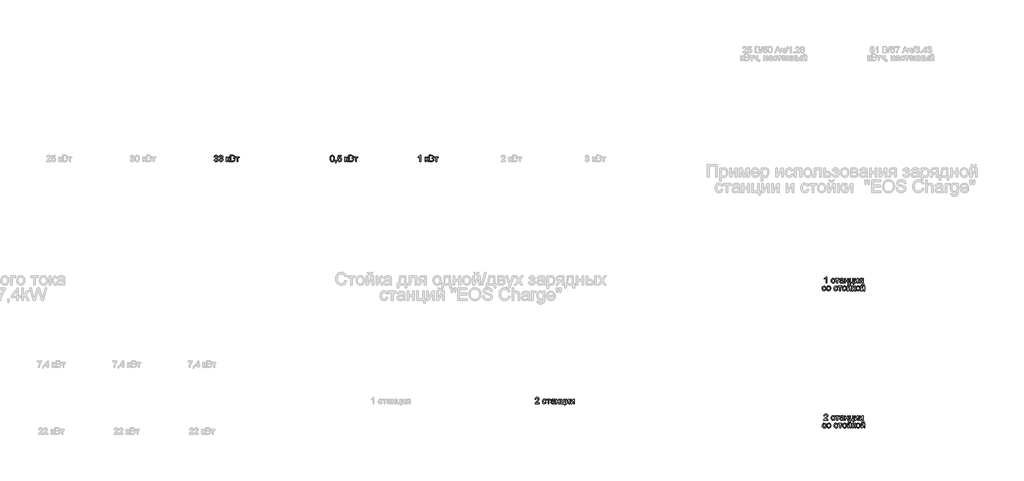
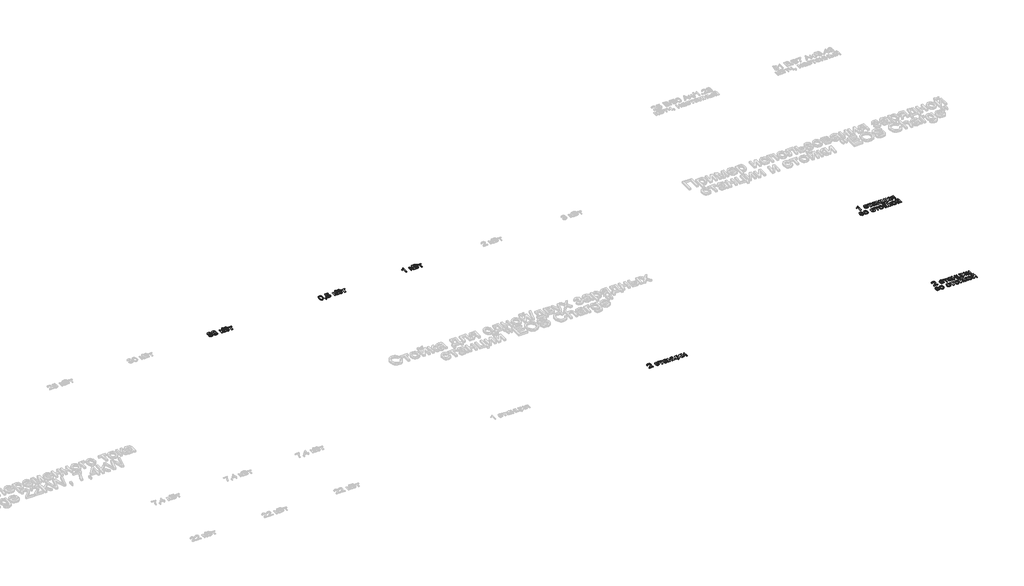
# One storey, part 9 of 26: 6 proxies.
"""IFC4 building model written with IfcOpenShell, lengths in millimetres."""

import ifcopenshell
import ifcopenshell.guid

model = None  # the IFC model being written
_history = None  # IfcOwnerHistory: only IFC2X3 demands one
_inside = {}  # id of a spatial element -> (the spatial element, [elements in it])
_under = {}  # id of a project, library or spatial element -> (it, [spatial elements below it])
_declared = {}  # id of a project -> (the project, [libraries it declares])
_typed = {}  # id of a type object -> (the type object, [elements of that type])
_made_of = {}  # id of a material, layer set ... -> (it, [elements and type objects made of it])


def new_model(schema):
    """Start an empty IFC model of exactly this schema.

    Asked for "IFC4X3", IfcOpenShell would pick the latest addendum, in which some entities
    have other attributes; the version numbers below select the first issue.
    IFC2X3 requires an IfcOwnerHistory on every rooted entity: one is made here for all.
    """
    global model, _history
    if schema == "IFC4X3":
        model = ifcopenshell.file(schema_version=(4, 3, 0, 0))
    else:
        model = ifcopenshell.file(schema=schema)
    _inside.clear()
    _under.clear()
    _declared.clear()
    _typed.clear()
    _made_of.clear()
    _history = None
    if model.schema == "IFC2X3":
        org = make("IfcOrganization", Name="unknown")
        user = make(
            "IfcPersonAndOrganization",
            ThePerson=make("IfcPerson", FamilyName="unknown"),
            TheOrganization=org,
        )
        app = make(
            "IfcApplication",
            ApplicationDeveloper=org,
            Version="unknown",
            ApplicationFullName="unknown",
            ApplicationIdentifier="unknown",
        )
        _history = make(
            "IfcOwnerHistory",
            OwningUser=user,
            OwningApplication=app,
            ChangeAction="ADDED",
            CreationDate=0,
        )
    return model


def make(cls, **values):
    """One entity of the class cls with the attributes given. An attribute that is None is left unset."""
    return model.create_entity(
        cls, **{name: value for name, value in values.items() if value is not None}
    )


def rooted(cls, **values):
    """An entity with a GlobalId (a new one), such as an element, a storey or a relation."""
    return make(cls, GlobalId=ifcopenshell.guid.new(), OwnerHistory=_history, **values)


def si_unit(unit_type, name, prefix=None):
    """IfcSIUnit, for example si_unit("LENGTHUNIT", "METRE", prefix="MILLI")."""
    return make("IfcSIUnit", UnitType=unit_type, Prefix=prefix, Name=name)


def assignment(units):
    """IfcUnitAssignment: the units of a project."""
    return None if units is None else make("IfcUnitAssignment", Units=units)


def point(xyz):
    """IfcCartesianPoint."""
    return None if xyz is None else make("IfcCartesianPoint", Coordinates=xyz)


def direction(xyz):
    """IfcDirection."""
    return None if xyz is None else make("IfcDirection", DirectionRatios=xyz)


def frame(location, z_axis=None, x_axis=None):
    """IfcAxis2Placement3D, a coordinate frame: its origin and axes. An axis left out is left unset."""
    return make(
        "IfcAxis2Placement3D",
        Location=point(location),
        Axis=direction(z_axis),
        RefDirection=direction(x_axis),
    )


def origin():
    """The frame at (0, 0, 0) with its axes left unset."""
    return frame((0.0, 0.0, 0.0))


def origin_with_axes():
    """The frame at (0, 0, 0) with the z axis (0, 0, 1) and the x axis (1, 0, 0) written out."""
    return frame((0.0, 0.0, 0.0), z_axis=(0.0, 0.0, 1.0), x_axis=(1.0, 0.0, 0.0))


def place(relative_to, where):
    """IfcLocalPlacement: puts the frame where relative to a parent placement (None: the world)."""
    return make(
        "IfcLocalPlacement", PlacementRelTo=relative_to, RelativePlacement=where
    )


def context(
    kind, dimensions, precision=None, world=None, true_north=None, identifier=None
):
    """IfcGeometricRepresentationContext, for example the 3D "Model" context."""
    return make(
        "IfcGeometricRepresentationContext",
        ContextIdentifier=identifier,
        ContextType=kind,
        CoordinateSpaceDimension=dimensions,
        Precision=precision,
        WorldCoordinateSystem=world,
        TrueNorth=true_north,
    )


def project(units=None, contexts=None):
    """IfcProject with its units and contexts."""
    return rooted(
        "IfcProject",
        Name="project",
        RepresentationContexts=contexts,
        UnitsInContext=assignment(units),
    )


def spatial(cls, under=None, at=None, **own):
    """A site, building, storey or space (cls), placed at a placement, below another one or the project."""
    s = rooted(cls, ObjectPlacement=at, **own)
    if under is not None:
        _under.setdefault(under.id(), (under, []))[1].append(s)
    return s


def polyline(points):
    """IfcPolyline through the points."""
    return make("IfcPolyline", Points=[point(p) for p in points])


def outline(outer, holes=None, kind="AREA"):
    """IfcArbitraryClosedProfileDef: a profile drawn as a closed curve; with holes, ...WithVoids."""
    if holes is None:
        return make("IfcArbitraryClosedProfileDef", ProfileType=kind, OuterCurve=outer)
    return make(
        "IfcArbitraryProfileDefWithVoids",
        ProfileType=kind,
        OuterCurve=outer,
        InnerCurves=holes,
    )


def extrude(swept, where, along, depth):
    """IfcExtrudedAreaSolid: the profile swept, set in the frame where, extruded along a direction by depth."""
    return make(
        "IfcExtrudedAreaSolid",
        SweptArea=swept,
        Position=where,
        ExtrudedDirection=direction(along),
        Depth=depth,
    )


def shape(context_of_items, identifier, shape_type, items):
    """IfcShapeRepresentation: the items that make up one representation, for example the "Body"."""
    return make(
        "IfcShapeRepresentation",
        ContextOfItems=context_of_items,
        RepresentationIdentifier=identifier,
        RepresentationType=shape_type,
        Items=items,
    )


def made_of(thing, what):
    """Note that an element or type object is made of a material, layer set ...; save() writes the relation."""
    if what is not None:
        _made_of.setdefault(what.id(), (what, []))[1].append(thing)
    return thing


def element(
    cls,
    number,
    at=None,
    inside=None,
    cuts=None,
    type_object=None,
    material=None,
    context=None,
    identifier="Body",
    shape_type=None,
    held_by="IfcProductDefinitionShape",
    body=None,
    shapes=None,
    **own,
):
    """One element of the class cls, such as IfcWall. Its Tag is "e" and its number.

    at: its placement. inside: the storey or other place that contains it. cuts: it is an
    opening in that element (IfcRelVoidsElement). A single representation is given by context,
    identifier, shape_type and body (its items); several are given by shapes. held_by: the class
    of the entity that holds the representations. save() writes the other relations.
    """
    e = rooted(cls, Tag="e%d" % number, ObjectPlacement=at, **own)
    if body is not None:
        shapes = [shape(context, identifier, shape_type, body)]
    if shapes is not None:
        e.Representation = make(held_by, Representations=shapes)
    if inside is not None:
        _inside.setdefault(inside.id(), (inside, []))[1].append(e)
    if cuts is not None:
        rooted(
            "IfcRelVoidsElement", RelatingBuildingElement=cuts, RelatedOpeningElement=e
        )
    if type_object is not None:
        _typed.setdefault(type_object.id(), (type_object, []))[1].append(e)
    return made_of(e, material)


def aggregate(whole, parts):
    """IfcRelAggregates: a whole, such as a stair, and the parts it consists of."""
    return rooted("IfcRelAggregates", RelatingObject=whole, RelatedObjects=parts)


def save(model, path):
    """Write the relations noted so far, then the file.

    IfcRelAggregates (storeys below a building ...), IfcRelContainedInSpatialStructure (elements
    in a storey), IfcRelDefinesByType, IfcRelAssociatesMaterial and IfcRelDeclares: one each for
    every whole, place, type object, material and project.
    """
    for whole, parts in _under.values():
        aggregate(whole, parts)
    for where, things in _inside.values():
        rooted(
            "IfcRelContainedInSpatialStructure",
            RelatedElements=things,
            RelatingStructure=where,
        )
    for kind, things in _typed.values():
        rooted("IfcRelDefinesByType", RelatedObjects=things, RelatingType=kind)
    for what, things in _made_of.values():
        rooted("IfcRelAssociatesMaterial", RelatedObjects=things, RelatingMaterial=what)
    for by, libraries in _declared.values():
        rooted("IfcRelDeclares", RelatingContext=by, RelatedDefinitions=libraries)
    model.write(path)


model = new_model("IFC4")

# Units and contexts
model_context = context("Model", 3, world=origin())
ifc_project = project(units=[si_unit("LENGTHUNIT", "METRE", prefix="MILLI")], contexts=[model_context])

# Site, building, storey
site = spatial("IfcSite", under=ifc_project)
building = spatial("IfcBuilding", under=site)
storey = spatial("IfcBuildingStorey", under=building, Name="Этаж 01", Elevation=0.0)

# Proxies
placement = place(None, origin())
element("IfcBuildingElementProxy", 1, Name="75 мм Arial", ObjectType="75 мм Arial", at=placement, inside=storey, context=model_context, shape_type="SweptSolid", body=[
    extrude(outline(polyline([(8083.027027, -19634.6892694), (8092.444806, -19633.512047), (8097.6411392, -19643.4264667), (8107.3624209, -19646.4614932), (8118.803551, -19642.2860326), (8123.052588, -19631.9485485), (8118.8403392, -19622.2088727), (8108.1349731, -19618.3553088), (8101.5314913, -19619.3853784), (8102.579955, -19609.9675993), (8114.7752431, -19607.3740312), (8119.5209209, -19599.0598981), (8116.0812242, -19591.6930612), (8107.2152681, -19588.7775964), (8098.2389475, -19591.7206523), (8093.6220284, -19600.5498202), (8084.2042493, -19599.3725978), (8091.9113771, -19584.6021357), (8106.8841743, -19579.3598173), (8118.2425309, -19581.9441883), (8126.188782, -19589.0075226), (8128.9387, -19598.5080751), (8126.3267378, -19607.1900902), (8118.6012159, -19613.42569), (8128.8651236, -19619.863625), (8132.4703671, -19632.1140954), (8130.6677453, -19641.2927512), (8125.25988, -19648.9630908), (8117.0974982, -19654.1502269), (8107.0313271, -19655.8792723), (8097.9262478, -19654.4031458), (8090.5134256, -19649.9747663), (8085.3584791, -19643.201139), (8083.027027, -19634.6892694)])), origin_with_axes(), (0.0, 0.0, 1.0), 5.0),
    extrude(outline(polyline([(8140.7109238, -19634.6892694), (8150.1287029, -19633.512047), (8155.3250361, -19643.4264667), (8165.0463178, -19646.4614932), (8176.4874478, -19642.2860326), (8180.7364849, -19631.9485485), (8176.524236, -19622.2088727), (8165.81887, -19618.3553088), (8159.2153882, -19619.3853784), (8160.2638518, -19609.9675993), (8172.45914, -19607.3740312), (8177.2048177, -19599.0598981), (8173.7651211, -19591.6930612), (8164.899165, -19588.7775964), (8155.9228443, -19591.7206523), (8151.3059253, -19600.5498202), (8141.8881462, -19599.3725978), (8149.595274, -19584.6021357), (8164.5680712, -19579.3598173), (8175.9264278, -19581.9441883), (8183.8726789, -19589.0075226), (8186.6225968, -19598.5080751), (8184.0106346, -19607.1900902), (8176.2851127, -19613.42569), (8186.5490204, -19619.863625), (8190.154264, -19632.1140954), (8188.3516422, -19641.2927512), (8182.9437768, -19648.9630908), (8174.7813951, -19654.1502269), (8164.715224, -19655.8792723), (8155.6101446, -19654.4031458), (8148.1973224, -19649.9747663), (8143.0423759, -19643.201139), (8140.7109238, -19634.6892694)])), origin_with_axes(), (0.0, 0.0, 1.0), 5.0),
    extrude(outline(polyline([(8230.179825, -19599.3725978), (8239.5976041, -19599.3725978), (8239.5976041, -19622.9170455), (8245.9067803, -19621.2247883), (8251.0755224, -19611.3655509), (8255.3705447, -19602.8582797), (8259.1597292, -19600.0899677), (8266.0483196, -19599.3725978), (8267.8509413, -19599.3725978), (8267.8509413, -19608.8455592), (8265.3125556, -19608.7903769), (8260.7140306, -19609.7836583), (8257.4766691, -19615.9824699), (8253.6782875, -19622.6871193), (8248.3531956, -19625.9704661), (8260.1254194, -19637.3564138), (8270.2053861, -19654.7020499), (8259.50002, -19654.7020499), (8249.6223885, -19637.7242958), (8244.6559815, -19630.5413999), (8239.5976041, -19628.8031574), (8239.5976041, -19654.7020499), (8230.179825, -19654.7020499), (8230.179825, -19599.3725978)])), origin_with_axes(), (0.0, 0.0, 1.0), 5.0),
    extrude(outline(polyline([(8277.2687204, -19654.7020499), (8277.2687204, -19579.3598173), (8306.0186983, -19579.3598173), (8320.0993817, -19581.5763063), (8328.4135148, -19588.3913203), (8331.4209501, -19598.0298285), (8328.8917614, -19606.8314053), (8321.2490129, -19613.4992664), (8330.5288363, -19620.5258125), (8333.7753949, -19632.2428541), (8331.5589059, -19642.368806), (8326.0682671, -19649.5792931), (8317.8736956, -19653.4052659), (8305.7979691, -19654.7020499), (8277.2687204, -19654.7020499)]), holes=[polyline([(8286.6864995, -19609.9675993), (8303.8849828, -19609.9675993), (8313.9281612, -19609.1582589), (8319.970623, -19605.672577), (8322.003171, -19599.5381447), (8320.1085788, -19593.3945154), (8314.6823193, -19589.7616807), (8302.5790017, -19588.7775964), (8286.6864995, -19588.7775964), (8286.6864995, -19609.9675993)]), polyline([(8286.6864995, -19645.2842708), (8306.0003042, -19645.2842708), (8312.9900621, -19644.9163888), (8318.9037652, -19642.8654467), (8322.8217085, -19638.680789), (8324.3576158, -19632.3348246), (8322.554994, -19625.0139729), (8316.7148673, -19620.6453742), (8305.0805992, -19619.3853784), (8286.6864995, -19619.3853784), (8286.6864995, -19645.2842708)])]), origin_with_axes(), (0.0, 0.0, 1.0), 5.0),
    extrude(outline(polyline([(8340.8387292, -19599.3725978), (8385.5731798, -19599.3725978), (8385.5731798, -19608.7903769), (8367.914844, -19608.7903769), (8367.914844, -19654.7020499), (8358.4970649, -19654.7020499), (8358.4970649, -19608.7903769), (8340.8387292, -19608.7903769), (8340.8387292, -19599.3725978)])), origin_with_axes(), (0.0, 0.0, 1.0), 5.0),
])
element("IfcBuildingElementProxy", 2, Name="75 мм Arial", ObjectType="75 мм Arial", at=placement, inside=storey, context=model_context, shape_type="SweptSolid", body=[
    extrude(outline(polyline([(9468.8343045, -19617.6379389), (9471.6026165, -19595.9604923), (9479.8247791, -19583.4617015), (9493.5559746, -19579.3598173), (9504.5556462, -19581.7878385), (9512.1524094, -19588.7867934), (9516.5669934, -19599.9336179), (9518.2776447, -19617.6379389), (9515.5369238, -19639.223415), (9507.3423524, -19651.7497969), (9493.5559746, -19655.8792723), (9483.7703135, -19654.0858476), (9476.3390972, -19648.7055734), (9470.7105027, -19635.9630608), (9468.8343045, -19617.6379389)]), holes=[polyline([(9478.2520836, -19617.6195448), (9479.3557296, -19632.4336929), (9482.6666675, -19641.0076426), (9493.5559746, -19646.4614932), (9504.4452816, -19640.9892485), (9507.7562196, -19632.4107003), (9508.8598656, -19617.6195448), (9504.5924344, -19594.4981614), (9493.44561, -19588.7775964), (9482.8138203, -19593.8175797), (9479.3925178, -19602.9962355), (9478.2520836, -19617.6195448)])]), origin_with_axes(), (0.0, 0.0, 1.0), 5.0),
    extrude(outline(polyline([(9531.2270909, -19654.7020499), (9531.2270909, -19645.2842708), (9540.64487, -19645.2842708), (9540.64487, -19654.7020499), (9538.9526128, -19664.3313611), (9533.5815357, -19670.0059409), (9531.2270909, -19666.4742737), (9534.6851816, -19662.4091777), (9535.9175863, -19654.7020499), (9531.2270909, -19654.7020499)])), origin_with_axes(), (0.0, 0.0, 1.0), 5.0),
    extrude(outline(polyline([(9555.948761, -19634.6892694), (9565.36654, -19633.512047), (9570.1122178, -19643.2149346), (9579.9530611, -19646.4614932), (9591.7620732, -19641.9457417), (9595.974322, -19629.9619857), (9592.0287876, -19618.7783731), (9580.1002139, -19614.6764888), (9571.8320661, -19616.3135637), (9566.5437624, -19620.5626007), (9557.1259833, -19619.3853784), (9565.36654, -19580.5370397), (9601.860434, -19580.5370397), (9601.860434, -19589.9548187), (9572.9816973, -19589.9548187), (9568.9533895, -19610.7033633), (9582.7305702, -19605.2587097), (9591.5298477, -19606.9463684), (9598.8346046, -19612.0093444), (9603.752727, -19619.7256692), (9605.3921011, -19629.3733745), (9603.9159746, -19638.7911536), (9599.4875951, -19646.8477693), (9591.0079151, -19653.6213965), (9579.9162729, -19655.8792723), (9570.66634, -19654.4284377), (9563.2972038, -19650.0759338), (9558.2457242, -19643.3275985), (9555.948761, -19634.6892694)])), origin_with_axes(), (0.0, 0.0, 1.0), 5.0),
    extrude(outline(polyline([(9645.4176622, -19599.3725978), (9654.8354413, -19599.3725978), (9654.8354413, -19622.9170455), (9661.1446175, -19621.2247883), (9666.3133595, -19611.3655509), (9670.6083818, -19602.8582797), (9674.3975664, -19600.0899677), (9681.2861567, -19599.3725978), (9683.0887785, -19599.3725978), (9683.0887785, -19608.8455592), (9680.5503927, -19608.7903769), (9675.9518678, -19609.7836583), (9672.7145062, -19615.9824699), (9668.9161246, -19622.6871193), (9663.5910328, -19625.9704661), (9675.3632566, -19637.3564138), (9685.4432233, -19654.7020499), (9674.7378572, -19654.7020499), (9664.8602256, -19637.7242958), (9659.8938187, -19630.5413999), (9654.8354413, -19628.8031574), (9654.8354413, -19654.7020499), (9645.4176622, -19654.7020499), (9645.4176622, -19599.3725978)])), origin_with_axes(), (0.0, 0.0, 1.0), 5.0),
    extrude(outline(polyline([(9692.5065576, -19654.7020499), (9692.5065576, -19579.3598173), (9721.2565355, -19579.3598173), (9735.3372189, -19581.5763063), (9743.651352, -19588.3913203), (9746.6587873, -19598.0298285), (9744.1295985, -19606.8314053), (9736.4868501, -19613.4992664), (9745.7666734, -19620.5258125), (9749.013232, -19632.2428541), (9746.796743, -19642.368806), (9741.3061042, -19649.5792931), (9733.1115328, -19653.4052659), (9721.0358063, -19654.7020499), (9692.5065576, -19654.7020499)]), holes=[polyline([(9701.9243366, -19645.2842708), (9721.2381414, -19645.2842708), (9728.2278993, -19644.9163888), (9734.1416024, -19642.8654467), (9738.0595456, -19638.680789), (9739.595453, -19632.3348246), (9737.7928312, -19625.0139729), (9731.9527045, -19620.6453742), (9720.3184364, -19619.3853784), (9701.9243366, -19619.3853784), (9701.9243366, -19645.2842708)]), polyline([(9701.9243366, -19609.9675993), (9719.1228199, -19609.9675993), (9729.1659984, -19609.1582589), (9735.2084602, -19605.672577), (9737.2410082, -19599.5381447), (9735.3464159, -19593.3945154), (9729.9201565, -19589.7616807), (9717.8168388, -19588.7775964), (9701.9243366, -19588.7775964), (9701.9243366, -19609.9675993)])]), origin_with_axes(), (0.0, 0.0, 1.0), 5.0),
    extrude(outline(polyline([(9756.0765663, -19599.3725978), (9800.811017, -19599.3725978), (9800.811017, -19608.7903769), (9783.1526812, -19608.7903769), (9783.1526812, -19654.7020499), (9773.7349021, -19654.7020499), (9773.7349021, -19608.7903769), (9756.0765663, -19608.7903769), (9756.0765663, -19599.3725978)])), origin_with_axes(), (0.0, 0.0, 1.0), 5.0),
])
element("IfcBuildingElementProxy", 3, Name="75 мм Arial", ObjectType="75 мм Arial", at=placement, inside=storey, context=model_context, shape_type="SweptSolid", body=[
    extrude(outline(polyline([(10547.7082043, -19654.7020499), (10538.2904252, -19654.7020499), (10538.2904252, -19595.9880835), (10529.3692868, -19602.3432449), (10519.454867, -19607.0981197), (10519.454867, -19598.1953754), (10533.2596389, -19589.3846017), (10541.6381514, -19579.3598173), (10547.7082043, -19579.3598173), (10547.7082043, -19654.7020499)])), origin_with_axes(), (0.0, 0.0, 1.0), 5.0),
    extrude(outline(polyline([(10601.860434, -19599.3725978), (10611.278213, -19599.3725978), (10611.278213, -19622.9170455), (10617.5873893, -19621.2247883), (10622.7561313, -19611.3655509), (10627.0511536, -19602.8582797), (10630.8403381, -19600.0899677), (10637.7289285, -19599.3725978), (10639.5315503, -19599.3725978), (10639.5315503, -19608.8455592), (10636.9931645, -19608.7903769), (10632.3946396, -19609.7836583), (10629.157278, -19615.9824699), (10625.3588964, -19622.6871193), (10620.0338045, -19625.9704661), (10631.8060284, -19637.3564138), (10641.885995, -19654.7020499), (10631.180629, -19654.7020499), (10621.3029974, -19637.7242958), (10616.3365905, -19630.5413999), (10611.278213, -19628.8031574), (10611.278213, -19654.7020499), (10601.860434, -19654.7020499), (10601.860434, -19599.3725978)])), origin_with_axes(), (0.0, 0.0, 1.0), 5.0),
    extrude(outline(polyline([(10648.9493293, -19654.7020499), (10648.9493293, -19579.3598173), (10677.6993073, -19579.3598173), (10691.7799906, -19581.5763063), (10700.0941237, -19588.3913203), (10703.101559, -19598.0298285), (10700.5723703, -19606.8314053), (10692.9296219, -19613.4992664), (10702.2094452, -19620.5258125), (10705.4560038, -19632.2428541), (10703.2395148, -19642.368806), (10697.748876, -19649.5792931), (10689.5543046, -19653.4052659), (10677.4785781, -19654.7020499), (10648.9493293, -19654.7020499)]), holes=[polyline([(10658.3671084, -19609.9675993), (10675.5655917, -19609.9675993), (10685.6087702, -19609.1582589), (10691.6512319, -19605.672577), (10693.68378, -19599.5381447), (10691.7891877, -19593.3945154), (10686.3629283, -19589.7616807), (10674.2596106, -19588.7775964), (10658.3671084, -19588.7775964), (10658.3671084, -19609.9675993)]), polyline([(10658.3671084, -19645.2842708), (10677.6809132, -19645.2842708), (10684.6706711, -19644.9163888), (10690.5843741, -19642.8654467), (10694.5023174, -19638.680789), (10696.0382247, -19632.3348246), (10694.235603, -19625.0139729), (10688.3954763, -19620.6453742), (10676.7612082, -19619.3853784), (10658.3671084, -19619.3853784), (10658.3671084, -19645.2842708)])]), origin_with_axes(), (0.0, 0.0, 1.0), 5.0),
    extrude(outline(polyline([(10712.5193381, -19599.3725978), (10757.2537887, -19599.3725978), (10757.2537887, -19608.7903769), (10739.595453, -19608.7903769), (10739.595453, -19654.7020499), (10730.1776739, -19654.7020499), (10730.1776739, -19608.7903769), (10712.5193381, -19608.7903769), (10712.5193381, -19599.3725978)])), origin_with_axes(), (0.0, 0.0, 1.0), 5.0),
])
element("IfcBuildingElementProxy", 4, Name="75 мм Arial", ObjectType="75 мм Arial", at=placement, inside=storey, context=model_context, shape_type="SweptSolid", body=[
    extrude(outline(polyline([(11963.7624536, -22538.9278026), (11963.7624536, -22548.3455817), (11914.3191134, -22548.3455817), (11915.3307889, -22541.8524645), (11921.051354, -22531.8552713), (11932.8419719, -22520.9383731), (11949.1023561, -22505.248206), (11953.1674521, -22494.5796281), (11949.3322823, -22485.9435983), (11939.316695, -22482.4211282), (11928.8780434, -22485.8608248), (11924.9141149, -22495.3705744), (11915.4963358, -22494.193352), (11917.7795035, -22485.0836741), (11922.71602, -22478.4296085), (11930.048368, -22474.359914), (11939.5190301, -22473.0033491), (11949.0586701, -22474.5116653), (11956.3772225, -22479.0366138), (11961.033229, -22485.7964455), (11962.5852312, -22494.009411), (11960.9113681, -22502.9397465), (11955.347153, -22512.1735845), (11941.8550808, -22525.0770455), (11931.020956, -22534.1361397), (11926.771919, -22538.9278026), (11963.7624536, -22538.9278026)])), origin_with_axes(), (0.0, 0.0, 1.0), 5.0),
    extrude(outline(polyline([(12040.2819086, -22528.3328012), (12049.6996877, -22529.5100236), (12042.1397127, -22544.2161063), (12027.2037037, -22549.5228041), (12017.1858171, -22547.6718978), (12009.3522298, -22542.119179), (12004.2961517, -22533.1083693), (12002.6107923, -22520.8831908), (12005.4894689, -22505.2390089), (12014.2634545, -22495.1866334), (12027.074945, -22491.8389073), (12041.3947516, -22496.4374322), (12048.5224653, -22509.497243), (12039.1046862, -22510.6744654), (12034.7360875, -22503.6203282), (12027.1485214, -22501.2566863), (12016.2316232, -22505.9103936), (12012.0285714, -22520.6256734), (12016.1396527, -22535.4789089), (12026.891004, -22540.105025), (12035.7661571, -22537.2171514), (12040.2819086, -22528.3328012)])), origin_with_axes(), (0.0, 0.0, 1.0), 5.0),
    extrude(outline(polyline([(12053.2313548, -22493.0161296), (12097.9658054, -22493.0161296), (12097.9658054, -22502.4339087), (12080.3074697, -22502.4339087), (12080.3074697, -22548.3455817), (12070.8896906, -22548.3455817), (12070.8896906, -22502.4339087), (12053.2313548, -22502.4339087), (12053.2313548, -22493.0161296)])), origin_with_axes(), (0.0, 0.0, 1.0), 5.0),
    extrude(outline(polyline([(12141.5230337, -22541.2822474), (12132.3903631, -22547.665), (12122.3011994, -22549.5228041), (12108.6251862, -22545.0530379), (12103.8519174, -22533.6303019), (12105.6545391, -22526.1806915), (12110.3910198, -22520.7728262), (12116.9853046, -22517.6826174), (12125.1338908, -22516.2662717), (12141.4678514, -22513.0289102), (12141.5230337, -22510.9319828), (12138.9294656, -22503.9790131), (12128.5184051, -22501.2566863), (12118.9902615, -22503.0685052), (12114.4469188, -22509.497243), (12105.0291397, -22508.3200206), (12109.1034328, -22499.1229708), (12117.3072013, -22493.7334995), (12129.7324157, -22491.8389073), (12141.1459546, -22493.5127703), (12147.5930866, -22497.7158221), (12150.4809602, -22504.1077718), (12150.9408127, -22512.3483285), (12150.9408127, -22524.06537), (12151.4190593, -22540.4269218), (12153.2952575, -22548.3455817), (12143.8774784, -22548.3455817), (12141.5230337, -22541.2822474)]), holes=[polyline([(12141.5230337, -22522.4466893), (12126.3295073, -22525.3345629), (12118.2269063, -22526.8612732), (12114.5572834, -22529.3444767), (12113.2696964, -22532.9681143), (12116.0747966, -22538.06328), (12124.3061563, -22540.105025), (12133.8343, -22537.8517478), (12139.9779293, -22532.3978972), (12141.4678514, -22525.1138337), (12141.5230337, -22522.4466893)])]), origin_with_axes(), (0.0, 0.0, 1.0), 5.0),
    extrude(outline(polyline([(12163.890259, -22493.0161296), (12173.308038, -22493.0161296), (12173.308038, -22514.2061326), (12198.0297081, -22514.2061326), (12198.0297081, -22493.0161296), (12207.4474872, -22493.0161296), (12207.4474872, -22548.3455817), (12198.0297081, -22548.3455817), (12198.0297081, -22523.6239116), (12173.308038, -22523.6239116), (12173.308038, -22548.3455817), (12163.890259, -22548.3455817), (12163.890259, -22493.0161296)])), origin_with_axes(), (0.0, 0.0, 1.0), 5.0),
    extrude(outline(polyline([(12221.5741558, -22493.0161296), (12230.9919349, -22493.0161296), (12230.9919349, -22538.9278026), (12258.0680497, -22538.9278026), (12258.0680497, -22493.0161296), (12267.4858288, -22493.0161296), (12267.4858288, -22538.9278026), (12273.3719407, -22538.9278026), (12273.3719407, -22563.6494727), (12263.9541617, -22563.6494727), (12263.9541617, -22548.3455817), (12221.5741558, -22548.3455817), (12221.5741558, -22493.0161296)])), origin_with_axes(), (0.0, 0.0, 1.0), 5.0),
    extrude(outline(polyline([(12281.6124974, -22493.0161296), (12291.0302765, -22493.0161296), (12291.0302765, -22535.2121945), (12314.170054, -22493.0161296), (12326.346948, -22493.0161296), (12326.346948, -22548.3455817), (12316.929169, -22548.3455817), (12316.929169, -22506.4070343), (12293.9365443, -22548.3455817), (12281.6124974, -22548.3455817), (12281.6124974, -22493.0161296)])), origin_with_axes(), (0.0, 0.0, 1.0), 5.0),
    extrude(outline(polyline([(12340.4736167, -22493.0161296), (12349.8913957, -22493.0161296), (12349.8913957, -22535.2121945), (12373.0311732, -22493.0161296), (12385.2080673, -22493.0161296), (12385.2080673, -22548.3455817), (12375.7902882, -22548.3455817), (12375.7902882, -22506.4070343), (12352.7976635, -22548.3455817), (12340.4736167, -22548.3455817), (12340.4736167, -22493.0161296)])), origin_with_axes(), (0.0, 0.0, 1.0), 5.0),
])
element("IfcBuildingElementProxy", 5, Name="75 мм Arial", ObjectType="75 мм Arial", at=placement, inside=storey, context=model_context, shape_type="SweptSolid", body=[
    extrude(outline(polyline([(15398.0149485, -21106.4828648), (15388.5971694, -21106.4828648), (15388.5971694, -21047.7688984), (15379.676031, -21054.1240598), (15369.7616113, -21058.8789346), (15369.7616113, -21049.9761903), (15383.5663831, -21041.1654166), (15391.9448956, -21031.1406322), (15398.0149485, -21031.1406322), (15398.0149485, -21106.4828648)])), origin_with_axes(), (0.0, 0.0, 1.0), 5.0),
    extrude(outline(polyline([(15487.4838497, -21086.4700843), (15496.9016288, -21087.6473066), (15489.3416538, -21102.3533894), (15474.4056448, -21107.6600872), (15464.3877582, -21105.8091809), (15456.554171, -21100.256462), (15451.4980928, -21091.2456524), (15449.8127334, -21079.0204739), (15452.69141, -21063.376292), (15461.4653956, -21053.3239165), (15474.2768861, -21049.9761903), (15488.5966928, -21054.5747153), (15495.7244064, -21067.6345261), (15486.3066273, -21068.8117485), (15481.9380287, -21061.7576112), (15474.3504625, -21059.3939694), (15463.4335643, -21064.0476767), (15459.2305125, -21078.7629565), (15463.3415938, -21093.616192), (15474.0929451, -21098.2423081), (15482.9680982, -21095.3544344), (15487.4838497, -21086.4700843)])), origin_with_axes(), (0.0, 0.0, 1.0), 5.0),
    extrude(outline(polyline([(15500.433296, -21051.1534127), (15545.1677466, -21051.1534127), (15545.1677466, -21060.5711918), (15527.5094108, -21060.5711918), (15527.5094108, -21106.4828648), (15518.0916317, -21106.4828648), (15518.0916317, -21060.5711918), (15500.433296, -21060.5711918), (15500.433296, -21051.1534127)])), origin_with_axes(), (0.0, 0.0, 1.0), 5.0),
    extrude(outline(polyline([(15588.7249748, -21099.4195305), (15579.5923043, -21105.8022831), (15569.5031406, -21107.6600872), (15555.8271274, -21103.1903209), (15551.0538585, -21091.767585), (15552.8564803, -21084.3179746), (15557.592961, -21078.9101093), (15564.1872457, -21075.8199005), (15572.3358319, -21074.4035548), (15588.6697925, -21071.1661933), (15588.7249748, -21069.0692659), (15586.1314067, -21062.1162962), (15575.7203463, -21059.3939694), (15566.1922026, -21061.2057882), (15561.64886, -21067.6345261), (15552.2310809, -21066.4573037), (15556.305374, -21057.2602538), (15564.5091425, -21051.8707826), (15576.9343569, -21049.9761903), (15588.3478958, -21051.6500534), (15594.7950277, -21055.8531052), (15597.6829014, -21062.2450549), (15598.1427539, -21070.4856116), (15598.1427539, -21082.2026531), (15598.6210005, -21098.5642048), (15600.4971987, -21106.4828648), (15591.0794196, -21106.4828648), (15588.7249748, -21099.4195305)]), holes=[polyline([(15588.7249748, -21080.5839723), (15573.5314484, -21083.471846), (15565.4288475, -21084.9985563), (15561.7592246, -21087.4817597), (15560.4716376, -21091.1053974), (15563.2767378, -21096.200563), (15571.5080974, -21098.2423081), (15581.0362411, -21095.9890309), (15587.1798704, -21090.5351803), (15588.6697925, -21083.2511168), (15588.7249748, -21080.5839723)])]), origin_with_axes(), (0.0, 0.0, 1.0), 5.0),
    extrude(outline(polyline([(15611.0922001, -21051.1534127), (15620.5099792, -21051.1534127), (15620.5099792, -21072.3434156), (15645.2316493, -21072.3434156), (15645.2316493, -21051.1534127), (15654.6494283, -21051.1534127), (15654.6494283, -21106.4828648), (15645.2316493, -21106.4828648), (15645.2316493, -21081.7611947), (15620.5099792, -21081.7611947), (15620.5099792, -21106.4828648), (15611.0922001, -21106.4828648), (15611.0922001, -21051.1534127)])), origin_with_axes(), (0.0, 0.0, 1.0), 5.0),
    extrude(outline(polyline([(15668.776097, -21051.1534127), (15678.193876, -21051.1534127), (15678.193876, -21097.0650857), (15705.2699909, -21097.0650857), (15705.2699909, -21051.1534127), (15714.68777, -21051.1534127), (15714.68777, -21097.0650857), (15720.5738819, -21097.0650857), (15720.5738819, -21121.7867558), (15711.1561028, -21121.7867558), (15711.1561028, -21106.4828648), (15668.776097, -21106.4828648), (15668.776097, -21051.1534127)])), origin_with_axes(), (0.0, 0.0, 1.0), 5.0),
    extrude(outline(polyline([(15728.8144386, -21051.1534127), (15738.2322176, -21051.1534127), (15738.2322176, -21093.3494776), (15761.3719951, -21051.1534127), (15773.5488892, -21051.1534127), (15773.5488892, -21106.4828648), (15764.1311101, -21106.4828648), (15764.1311101, -21064.5443173), (15741.1384854, -21106.4828648), (15728.8144386, -21106.4828648), (15728.8144386, -21051.1534127)])), origin_with_axes(), (0.0, 0.0, 1.0), 5.0),
    extrude(outline(polyline([(15830.0555636, -21051.1534127), (15830.0555636, -21106.4828648), (15820.6377846, -21106.4828648), (15820.6377846, -21085.2928619), (15815.5058307, -21085.2928619), (15808.5160728, -21086.4884784), (15801.9493792, -21094.5267), (15794.4445865, -21106.4828648), (15783.5552795, -21106.4828648), (15793.0098467, -21091.3629148), (15801.0296742, -21083.5270283), (15790.0667908, -21077.8064633), (15786.4983354, -21067.1378854), (15791.3727718, -21055.5863908), (15805.4810464, -21051.1534127), (15830.0555636, -21051.1534127)]), holes=[polyline([(15820.6377846, -21060.5711918), (15808.2217672, -21060.5711918), (15798.1693917, -21062.7508926), (15795.9161145, -21067.8552553), (15799.2362495, -21073.9345053), (15810.9992763, -21075.8750828), (15820.6377846, -21075.8750828), (15820.6377846, -21060.5711918)])]), origin_with_axes(), (0.0, 0.0, 1.0), 5.0),
    extrude(outline(polyline([(15379.7680015, -21177.9511976), (15389.1857806, -21179.12842), (15381.6258056, -21193.8345028), (15366.6897966, -21199.1412006), (15356.67191, -21197.2902943), (15348.8383228, -21191.7375754), (15343.7822446, -21182.7267658), (15342.0968852, -21170.5015872), (15344.9755619, -21154.8574054), (15353.7495474, -21144.8050299), (15366.5610379, -21141.4573037), (15380.8808446, -21146.0558287), (15388.0085582, -21159.1156395), (15378.5907792, -21160.2928619), (15374.2221805, -21153.2387246), (15366.6346143, -21150.8750828), (15355.7177161, -21155.52879), (15351.5146643, -21170.2440698), (15355.6257456, -21185.0973054), (15366.3770969, -21189.7234215), (15375.2522501, -21186.8355478), (15379.7680015, -21177.9511976)])), origin_with_axes(), (0.0, 0.0, 1.0), 5.0),
    extrude(outline(polyline([(15395.0718925, -21170.2992521), (15397.1090391, -21156.9589313), (15403.2204787, -21147.5825389), (15410.7712567, -21142.9886125), (15419.8119567, -21141.4573037), (15429.7056831, -21143.3220056), (15437.6082482, -21148.9161112), (15442.7884866, -21157.7981621), (15444.5152327, -21169.5267), (15441.4618121, -21186.2837248), (15432.5682649, -21195.7658833), (15419.8119567, -21199.1412006), (15409.7986687, -21197.2833965), (15401.9053006, -21191.7099843), (15396.7802446, -21182.6416931), (15395.0718925, -21170.2992521)]), holes=[polyline([(15404.4896716, -21170.280858), (15408.8490733, -21184.8765762), (15419.8119567, -21189.7234215), (15430.738052, -21184.848985), (15435.0974536, -21169.9865524), (15430.7104608, -21155.7219281), (15419.8119567, -21150.8750828), (15408.8490733, -21155.703534), (15404.4896716, -21170.280858)])]), origin_with_axes(), (0.0, 0.0, 1.0), 5.0),
    extrude(outline(polyline([(15519.8574653, -21177.9511976), (15529.2752444, -21179.12842), (15521.7152694, -21193.8345028), (15506.7792604, -21199.1412006), (15496.7613738, -21197.2902943), (15488.9277866, -21191.7375754), (15483.8717084, -21182.7267658), (15482.186349, -21170.5015872), (15485.0650256, -21154.8574054), (15493.8390112, -21144.8050299), (15506.6505017, -21141.4573037), (15520.9703083, -21146.0558287), (15528.098022, -21159.1156395), (15518.6802429, -21160.2928619), (15514.3116442, -21153.2387246), (15506.7240781, -21150.8750828), (15495.8071799, -21155.52879), (15491.6041281, -21170.2440698), (15495.7152094, -21185.0973054), (15506.4665607, -21189.7234215), (15515.3417138, -21186.8355478), (15519.8574653, -21177.9511976)])), origin_with_axes(), (0.0, 0.0, 1.0), 5.0),
    extrude(outline(polyline([(15532.8069115, -21142.6345261), (15577.5413622, -21142.6345261), (15577.5413622, -21152.0523052), (15559.8830264, -21152.0523052), (15559.8830264, -21197.9639782), (15550.4652473, -21197.9639782), (15550.4652473, -21152.0523052), (15532.8069115, -21152.0523052), (15532.8069115, -21142.6345261)])), origin_with_axes(), (0.0, 0.0, 1.0), 5.0),
    extrude(outline(polyline([(15583.4274741, -21170.2992521), (15585.4646206, -21156.9589313), (15591.5760603, -21147.5825389), (15599.1268382, -21142.9886125), (15608.1675382, -21141.4573037), (15618.0612647, -21143.3220056), (15625.9638298, -21148.9161112), (15631.1440681, -21157.7981621), (15632.8708142, -21169.5267), (15629.8173937, -21186.2837248), (15620.9238464, -21195.7658833), (15608.1675382, -21199.1412006), (15598.1542502, -21197.2833965), (15590.2608821, -21191.7099843), (15585.1358261, -21182.6416931), (15583.4274741, -21170.2992521)]), holes=[polyline([(15592.8452532, -21170.280858), (15597.2046548, -21184.8765762), (15608.1675382, -21189.7234215), (15619.0936335, -21184.848985), (15623.4530351, -21169.9865524), (15619.0660424, -21155.7219281), (15608.1675382, -21150.8750828), (15597.2046548, -21155.703534), (15592.8452532, -21170.280858)])]), origin_with_axes(), (0.0, 0.0, 1.0), 5.0),
    extrude(outline(polyline([(15643.4658157, -21142.6345261), (15652.8835948, -21142.6345261), (15652.8835948, -21184.830591), (15676.0233723, -21142.6345261), (15688.2002663, -21142.6345261), (15688.2002663, -21197.9639782), (15678.7824872, -21197.9639782), (15678.7824872, -21156.0254307), (15655.7898625, -21197.9639782), (15643.4658157, -21197.9639782), (15643.4658157, -21142.6345261)])), origin_with_axes(), (0.0, 0.0, 1.0), 5.0),
    extrude(outline(polyline([(15674.0735977, -21122.6217456), (15681.136932, -21122.6217456), (15676.5659982, -21133.0971854), (15666.4216522, -21136.7484142), (15655.4403746, -21133.1247765), (15650.52915, -21122.6217456), (15657.5924843, -21122.6217456), (15660.2412347, -21127.9284433), (15665.5755236, -21129.6850799), (15671.4248473, -21127.9836256), (15674.0735977, -21122.6217456)])), origin_with_axes(), (0.0, 0.0, 1.0), 5.0),
    extrude(outline(polyline([(15702.3269349, -21142.6345261), (15711.744714, -21142.6345261), (15711.744714, -21166.1789738), (15718.0538902, -21164.4867166), (15723.2226322, -21154.6274791), (15727.5176545, -21146.120208), (15731.3068391, -21143.351896), (15738.1954294, -21142.6345261), (15739.9980512, -21142.6345261), (15739.9980512, -21152.1074875), (15737.4596655, -21152.0523052), (15732.8611405, -21153.0455866), (15729.623779, -21159.2443982), (15725.8253974, -21165.9490475), (15720.5003055, -21169.2323944), (15732.2725293, -21180.6183421), (15742.352496, -21197.9639782), (15731.6471299, -21197.9639782), (15721.7694984, -21180.9862241), (15716.8030914, -21173.8033281), (15711.744714, -21172.0650857), (15711.744714, -21197.9639782), (15702.3269349, -21197.9639782), (15702.3269349, -21142.6345261)])), origin_with_axes(), (0.0, 0.0, 1.0), 5.0),
    extrude(outline(polyline([(15745.8841631, -21170.2992521), (15747.9213097, -21156.9589313), (15754.0327493, -21147.5825389), (15761.5835273, -21142.9886125), (15770.6242273, -21141.4573037), (15780.5179537, -21143.3220056), (15788.4205188, -21148.9161112), (15793.6007572, -21157.7981621), (15795.3275033, -21169.5267), (15792.2740827, -21186.2837248), (15783.3805355, -21195.7658833), (15770.6242273, -21199.1412006), (15760.6109393, -21197.2833965), (15752.7175712, -21191.7099843), (15747.5925152, -21182.6416931), (15745.8841631, -21170.2992521)]), holes=[polyline([(15755.3019422, -21170.280858), (15759.6613439, -21184.8765762), (15770.6242273, -21189.7234215), (15781.5503226, -21184.848985), (15785.9097242, -21169.9865524), (15781.5227314, -21155.7219281), (15770.6242273, -21150.8750828), (15759.6613439, -21155.703534), (15755.3019422, -21170.280858)])]), origin_with_axes(), (0.0, 0.0, 1.0), 5.0),
    extrude(outline(polyline([(15805.9225048, -21142.6345261), (15815.3402838, -21142.6345261), (15815.3402838, -21184.830591), (15838.4800613, -21142.6345261), (15850.6569554, -21142.6345261), (15850.6569554, -21197.9639782), (15841.2391763, -21197.9639782), (15841.2391763, -21156.0254307), (15818.2465516, -21197.9639782), (15805.9225048, -21197.9639782), (15805.9225048, -21142.6345261)])), origin_with_axes(), (0.0, 0.0, 1.0), 5.0),
    extrude(outline(polyline([(15836.5302868, -21122.6217456), (15843.5936211, -21122.6217456), (15839.0226873, -21133.0971854), (15828.8783413, -21136.7484142), (15817.8970637, -21133.1247765), (15812.9858391, -21122.6217456), (15820.0491734, -21122.6217456), (15822.6979237, -21127.9284433), (15828.0322127, -21129.6850799), (15833.8815364, -21127.9836256), (15836.5302868, -21122.6217456)])), origin_with_axes(), (0.0, 0.0, 1.0), 5.0),
])
element("IfcBuildingElementProxy", 6, Name="75 мм Arial", ObjectType="75 мм Arial", at=placement, inside=storey, context=model_context, shape_type="SweptSolid", body=[
    extrude(outline(polyline([(15411.3891922, -22737.0650857), (15411.3891922, -22746.4828648), (15361.9458521, -22746.4828648), (15362.9575275, -22739.9897476), (15368.6780926, -22729.9925544), (15380.4687105, -22719.0756562), (15396.7290947, -22703.3854891), (15400.7941908, -22692.7169112), (15396.959021, -22684.0808814), (15386.9434336, -22680.5584113), (15376.504782, -22683.9981079), (15372.5408535, -22693.5078575), (15363.1230744, -22692.3306351), (15365.4062421, -22683.2209572), (15370.3427586, -22676.5668916), (15377.6751066, -22672.497197), (15387.1457687, -22671.1406322), (15396.6854087, -22672.6489484), (15404.0039612, -22677.1738969), (15408.6599677, -22683.9337286), (15410.2119698, -22692.1466941), (15408.5381067, -22701.0770295), (15402.9738916, -22710.3108676), (15389.4818194, -22723.2143286), (15378.6476946, -22732.2734227), (15374.3986576, -22737.0650857), (15411.3891922, -22737.0650857)])), origin_with_axes(), (0.0, 0.0, 1.0), 5.0),
    extrude(outline(polyline([(15487.9086472, -22726.4700843), (15497.3264263, -22727.6473066), (15489.7664513, -22742.3533894), (15474.8304423, -22747.6600872), (15464.8125557, -22745.8091809), (15456.9789685, -22740.256462), (15451.9228903, -22731.2456524), (15450.2375309, -22719.0204739), (15453.1162075, -22703.376292), (15461.8901931, -22693.3239165), (15474.7016836, -22689.9761903), (15489.0214902, -22694.5747153), (15496.1492039, -22707.6345261), (15486.7314248, -22708.8117485), (15482.3628261, -22701.7576112), (15474.77526, -22699.3939694), (15463.8583618, -22704.0476767), (15459.65531, -22718.7629565), (15463.7663913, -22733.616192), (15474.5177426, -22738.2423081), (15483.3928957, -22735.3544344), (15487.9086472, -22726.4700843)])), origin_with_axes(), (0.0, 0.0, 1.0), 5.0),
    extrude(outline(polyline([(15500.8580934, -22691.1534127), (15545.5925441, -22691.1534127), (15545.5925441, -22700.5711918), (15527.9342083, -22700.5711918), (15527.9342083, -22746.4828648), (15518.5164292, -22746.4828648), (15518.5164292, -22700.5711918), (15500.8580934, -22700.5711918), (15500.8580934, -22691.1534127)])), origin_with_axes(), (0.0, 0.0, 1.0), 5.0),
    extrude(outline(polyline([(15589.1497723, -22739.4195305), (15580.0171018, -22745.8022831), (15569.927938, -22747.6600872), (15556.2519249, -22743.1903209), (15551.478656, -22731.767585), (15553.2812778, -22724.3179746), (15558.0177584, -22718.9101093), (15564.6120432, -22715.8199005), (15572.7606294, -22714.4035548), (15589.09459, -22711.1661933), (15589.1497723, -22709.0692659), (15586.5562042, -22702.1162962), (15576.1451438, -22699.3939694), (15566.6170001, -22701.2057882), (15562.0736574, -22707.6345261), (15552.6558784, -22706.4573037), (15556.7301715, -22697.2602538), (15564.9339399, -22691.8707826), (15577.3591543, -22689.9761903), (15588.7726932, -22691.6500534), (15595.2198252, -22695.8531052), (15598.1076989, -22702.2450549), (15598.5675514, -22710.4856116), (15598.5675514, -22722.2026531), (15599.045798, -22738.5642048), (15600.9219961, -22746.4828648), (15591.5042171, -22746.4828648), (15589.1497723, -22739.4195305)]), holes=[polyline([(15589.1497723, -22720.5839723), (15573.9562459, -22723.471846), (15565.8536449, -22724.9985563), (15562.184022, -22727.4817597), (15560.8964351, -22731.1053974), (15563.7015353, -22736.200563), (15571.9328949, -22738.2423081), (15581.4610386, -22735.9890309), (15587.6046679, -22730.5351803), (15589.09459, -22723.2511168), (15589.1497723, -22720.5839723)])]), origin_with_axes(), (0.0, 0.0, 1.0), 5.0),
    extrude(outline(polyline([(15611.5169976, -22691.1534127), (15620.9347767, -22691.1534127), (15620.9347767, -22712.3434156), (15645.6564467, -22712.3434156), (15645.6564467, -22691.1534127), (15655.0742258, -22691.1534127), (15655.0742258, -22746.4828648), (15645.6564467, -22746.4828648), (15645.6564467, -22721.7611947), (15620.9347767, -22721.7611947), (15620.9347767, -22746.4828648), (15611.5169976, -22746.4828648), (15611.5169976, -22691.1534127)])), origin_with_axes(), (0.0, 0.0, 1.0), 5.0),
    extrude(outline(polyline([(15669.2008944, -22691.1534127), (15678.6186735, -22691.1534127), (15678.6186735, -22737.0650857), (15705.6947884, -22737.0650857), (15705.6947884, -22691.1534127), (15715.1125674, -22691.1534127), (15715.1125674, -22737.0650857), (15720.9986794, -22737.0650857), (15720.9986794, -22761.7867558), (15711.5809003, -22761.7867558), (15711.5809003, -22746.4828648), (15669.2008944, -22746.4828648), (15669.2008944, -22691.1534127)])), origin_with_axes(), (0.0, 0.0, 1.0), 5.0),
    extrude(outline(polyline([(15729.239236, -22691.1534127), (15738.6570151, -22691.1534127), (15738.6570151, -22733.3494776), (15761.7967926, -22691.1534127), (15773.9736867, -22691.1534127), (15773.9736867, -22746.4828648), (15764.5559076, -22746.4828648), (15764.5559076, -22704.5443173), (15741.5632829, -22746.4828648), (15729.239236, -22746.4828648), (15729.239236, -22691.1534127)])), origin_with_axes(), (0.0, 0.0, 1.0), 5.0),
    extrude(outline(polyline([(15788.1003553, -22691.1534127), (15797.5181343, -22691.1534127), (15797.5181343, -22733.3494776), (15820.6579118, -22691.1534127), (15832.8348059, -22691.1534127), (15832.8348059, -22746.4828648), (15823.4170268, -22746.4828648), (15823.4170268, -22704.5443173), (15800.4244021, -22746.4828648), (15788.1003553, -22746.4828648), (15788.1003553, -22691.1534127)])), origin_with_axes(), (0.0, 0.0, 1.0), 5.0),
    extrude(outline(polyline([(15381.3700214, -22817.9511976), (15390.7878005, -22819.12842), (15383.2278255, -22833.8345028), (15368.2918165, -22839.1412006), (15358.2739299, -22837.2902943), (15350.4403427, -22831.7375754), (15345.3842645, -22822.7267658), (15343.6989051, -22810.5015872), (15346.5775817, -22794.8574054), (15355.3515673, -22784.8050299), (15368.1630578, -22781.4573037), (15382.4828644, -22786.0558287), (15389.6105781, -22799.1156395), (15380.192799, -22800.2928619), (15375.8242003, -22793.2387246), (15368.2366342, -22790.8750828), (15357.319736, -22795.52879), (15353.1166842, -22810.2440698), (15357.2277655, -22825.0973054), (15367.9791168, -22829.7234215), (15376.8542699, -22826.8355478), (15381.3700214, -22817.9511976)])), origin_with_axes(), (0.0, 0.0, 1.0), 5.0),
    extrude(outline(polyline([(15396.6739124, -22810.2992521), (15398.711059, -22796.9589313), (15404.8224986, -22787.5825389), (15412.3732765, -22782.9886125), (15421.4139766, -22781.4573037), (15431.307703, -22783.3220056), (15439.2102681, -22788.9161112), (15444.3905064, -22797.7981621), (15446.1172526, -22809.5267), (15443.063832, -22826.2837248), (15434.1702848, -22835.7658833), (15421.4139766, -22839.1412006), (15411.4006885, -22837.2833965), (15403.5073205, -22831.7099843), (15398.3822644, -22822.6416931), (15396.6739124, -22810.2992521)]), holes=[polyline([(15406.0916915, -22810.280858), (15410.4510931, -22824.8765762), (15421.4139766, -22829.7234215), (15432.3400718, -22824.848985), (15436.6994735, -22809.9865524), (15432.3124807, -22795.7219281), (15421.4139766, -22790.8750828), (15410.4510931, -22795.703534), (15406.0916915, -22810.280858)])]), origin_with_axes(), (0.0, 0.0, 1.0), 5.0),
    extrude(outline(polyline([(15521.4594852, -22817.9511976), (15530.8772642, -22819.12842), (15523.3172892, -22833.8345028), (15508.3812802, -22839.1412006), (15498.3633937, -22837.2902943), (15490.5298064, -22831.7375754), (15485.4737283, -22822.7267658), (15483.7883689, -22810.5015872), (15486.6670455, -22794.8574054), (15495.4410311, -22784.8050299), (15508.2525215, -22781.4573037), (15522.5723282, -22786.0558287), (15529.7000419, -22799.1156395), (15520.2822628, -22800.2928619), (15515.9136641, -22793.2387246), (15508.3260979, -22790.8750828), (15497.4091997, -22795.52879), (15493.2061479, -22810.2440698), (15497.3172292, -22825.0973054), (15508.0685805, -22829.7234215), (15516.9437337, -22826.8355478), (15521.4594852, -22817.9511976)])), origin_with_axes(), (0.0, 0.0, 1.0), 5.0),
    extrude(outline(polyline([(15534.4089314, -22782.6345261), (15579.143382, -22782.6345261), (15579.143382, -22792.0523052), (15561.4850462, -22792.0523052), (15561.4850462, -22837.9639782), (15552.0672672, -22837.9639782), (15552.0672672, -22792.0523052), (15534.4089314, -22792.0523052), (15534.4089314, -22782.6345261)])), origin_with_axes(), (0.0, 0.0, 1.0), 5.0),
    extrude(outline(polyline([(15585.0294939, -22810.2992521), (15587.0666405, -22796.9589313), (15593.1780801, -22787.5825389), (15600.7288581, -22782.9886125), (15609.7695581, -22781.4573037), (15619.6632845, -22783.3220056), (15627.5658496, -22788.9161112), (15632.746088, -22797.7981621), (15634.4728341, -22809.5267), (15631.4194135, -22826.2837248), (15622.5258663, -22835.7658833), (15609.7695581, -22839.1412006), (15599.7562701, -22837.2833965), (15591.862902, -22831.7099843), (15586.737846, -22822.6416931), (15585.0294939, -22810.2992521)]), holes=[polyline([(15594.447273, -22810.280858), (15598.8066747, -22824.8765762), (15609.7695581, -22829.7234215), (15620.6956534, -22824.848985), (15625.055055, -22809.9865524), (15620.6680622, -22795.7219281), (15609.7695581, -22790.8750828), (15598.8066747, -22795.703534), (15594.447273, -22810.280858)])]), origin_with_axes(), (0.0, 0.0, 1.0), 5.0),
    extrude(outline(polyline([(15645.0678355, -22782.6345261), (15654.4856146, -22782.6345261), (15654.4856146, -22824.830591), (15677.6253921, -22782.6345261), (15689.8022862, -22782.6345261), (15689.8022862, -22837.9639782), (15680.3845071, -22837.9639782), (15680.3845071, -22796.0254307), (15657.3918824, -22837.9639782), (15645.0678355, -22837.9639782), (15645.0678355, -22782.6345261)])), origin_with_axes(), (0.0, 0.0, 1.0), 5.0),
    extrude(outline(polyline([(15675.6756175, -22762.6217456), (15682.7389519, -22762.6217456), (15678.1680181, -22773.0971854), (15668.023672, -22776.7484142), (15657.0423945, -22773.1247765), (15652.1311699, -22762.6217456), (15659.1945042, -22762.6217456), (15661.8432545, -22767.9284433), (15667.1775435, -22769.6850799), (15673.0268672, -22767.9836256), (15675.6756175, -22762.6217456)])), origin_with_axes(), (0.0, 0.0, 1.0), 5.0),
    extrude(outline(polyline([(15703.9289548, -22782.6345261), (15713.3467339, -22782.6345261), (15713.3467339, -22806.1789738), (15719.6559101, -22804.4867166), (15724.8246521, -22794.6274791), (15729.1196744, -22786.120208), (15732.9088589, -22783.351896), (15739.7974493, -22782.6345261), (15741.6000711, -22782.6345261), (15741.6000711, -22792.1074875), (15739.0616853, -22792.0523052), (15734.4631604, -22793.0455866), (15731.2257988, -22799.2443982), (15727.4274172, -22805.9490475), (15722.1023253, -22809.2323944), (15733.8745492, -22820.6183421), (15743.9545159, -22837.9639782), (15733.2491498, -22837.9639782), (15723.3715182, -22820.9862241), (15718.4051113, -22813.8033281), (15713.3467339, -22812.0650857), (15713.3467339, -22837.9639782), (15703.9289548, -22837.9639782), (15703.9289548, -22782.6345261)])), origin_with_axes(), (0.0, 0.0, 1.0), 5.0),
    extrude(outline(polyline([(15747.486183, -22810.2992521), (15749.5233296, -22796.9589313), (15755.6347692, -22787.5825389), (15763.1855471, -22782.9886125), (15772.2262472, -22781.4573037), (15782.1199736, -22783.3220056), (15790.0225387, -22788.9161112), (15795.202777, -22797.7981621), (15796.9295232, -22809.5267), (15793.8761026, -22826.2837248), (15784.9825554, -22835.7658833), (15772.2262472, -22839.1412006), (15762.2129591, -22837.2833965), (15754.3195911, -22831.7099843), (15749.194535, -22822.6416931), (15747.486183, -22810.2992521)]), holes=[polyline([(15756.9039621, -22810.280858), (15761.2633637, -22824.8765762), (15772.2262472, -22829.7234215), (15783.1523424, -22824.848985), (15787.5117441, -22809.9865524), (15783.1247513, -22795.7219281), (15772.2262472, -22790.8750828), (15761.2633637, -22795.703534), (15756.9039621, -22810.280858)])]), origin_with_axes(), (0.0, 0.0, 1.0), 5.0),
    extrude(outline(polyline([(15807.5245246, -22782.6345261), (15816.9423037, -22782.6345261), (15816.9423037, -22824.830591), (15840.0820812, -22782.6345261), (15852.2589752, -22782.6345261), (15852.2589752, -22837.9639782), (15842.8411962, -22837.9639782), (15842.8411962, -22796.0254307), (15819.8485715, -22837.9639782), (15807.5245246, -22837.9639782), (15807.5245246, -22782.6345261)])), origin_with_axes(), (0.0, 0.0, 1.0), 5.0),
    extrude(outline(polyline([(15838.1323066, -22762.6217456), (15845.1956409, -22762.6217456), (15840.6247071, -22773.0971854), (15830.4803611, -22776.7484142), (15819.4990836, -22773.1247765), (15814.5878589, -22762.6217456), (15821.6511932, -22762.6217456), (15824.2999436, -22767.9284433), (15829.6342325, -22769.6850799), (15835.4835563, -22767.9836256), (15838.1323066, -22762.6217456)])), origin_with_axes(), (0.0, 0.0, 1.0), 5.0),
])

save(model, "model.ifc")
